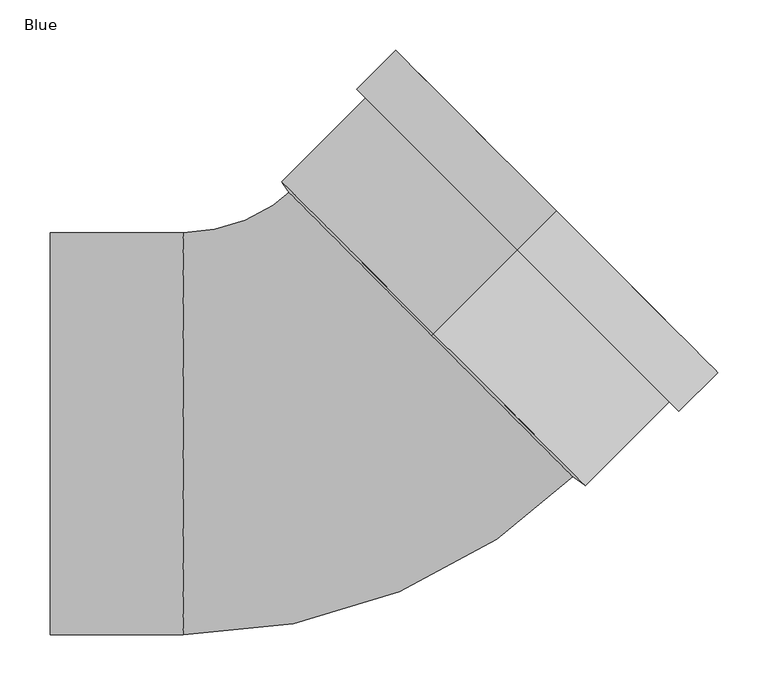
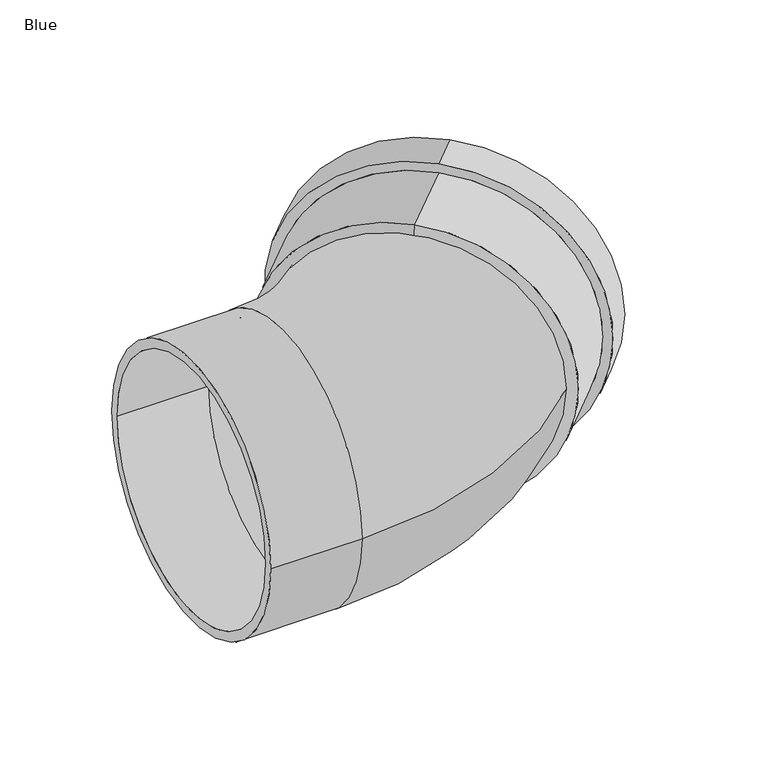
"""IFC4 building model written with IfcOpenShell, lengths in millimetres: pipe fitting geometry, AWADUKT PP SN10 Bend : Blue."""

from ifc_helpers import new_model, si_unit, point, frame, origin, place, context, project, spatial, polyline, circle_curve, ellipse_curve, trimmed, source, transform, mapped, element, save
from ifc_brep_helpers import plane_surface, cylinder_surface, revolved_surface, advanced_brep


def blue_8a6e1d2f(model_context):
    return source(origin(), model_context, "Body", "AdvancedBrep", [
        advanced_brep(
        [(182.7871029, 182.7871029, 213.7), (182.7871029, 182.7871029, -213.7), (99.3626553, 99.3626553, -213.7), (99.3626553, 99.3626553, 213.7), (221.5365545, 221.5365545, 227.4), (221.5365545, 221.5365545, -227.4), (182.7871029, 182.7871029, -227.4), (182.7871029, 182.7871029, 227.4), (211.8491916, 211.8491916, 200.0), (211.8491916, 211.8491916, -200.0), (221.5365545, 221.5365545, -200.0), (221.5365545, 221.5365545, 200.0), (192.4744658, 192.4744658, 213.7), (192.4744658, 192.4744658, -213.7), (211.8491916, 211.8491916, -213.7), (211.8491916, 211.8491916, 213.7), (107.4913179, 107.4913179, 200.0), (107.4913179, 107.4913179, -200.0), (192.4744658, 192.4744658, -200.0), (192.4744658, 192.4744658, 200.0), (105.7831745, 105.7831745, 186.3), (105.7831745, 105.7831745, -186.3), (95.9463684, 95.9463684, 186.3), (95.9463684, 95.9463684, -186.3)],
        [
            (0, 1, circle_curve(frame((182.7871029, 182.7871029, 0.0), z_axis=(-0.7071067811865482, -0.7071067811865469, 0.0), x_axis=(0.0, 0.0, -1.0)), 213.7)),
            (1, 2),
            (2, 3, circle_curve(frame((99.3626553, 99.3626553, 0.0), z_axis=(0.7071067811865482, 0.7071067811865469, 0.0), x_axis=(0.0, 0.0, -1.0)), 213.7)),
            (3, 0),
            (4, 5, circle_curve(frame((221.5365545, 221.5365545, 0.0), z_axis=(-0.7071067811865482, -0.7071067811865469, 0.0), x_axis=(0.0, 0.0, -1.0)), 227.4)),
            (5, 6),
            (6, 7, circle_curve(frame((182.7871029, 182.7871029, 0.0), z_axis=(0.7071067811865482, 0.7071067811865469, 0.0), x_axis=(0.0, 0.0, -1.0)), 227.4)),
            (7, 4),
            (8, 9, circle_curve(frame((211.8491916, 211.8491916, 0.0), z_axis=(-0.7071067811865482, -0.7071067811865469, 0.0), x_axis=(0.0, 0.0, -1.0)), 200.0)),
            (9, 10),
            (10, 11, circle_curve(frame((221.5365545, 221.5365545, 0.0), z_axis=(0.7071067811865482, 0.7071067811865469, 0.0), x_axis=(0.0, 0.0, -1.0)), 200.0)),
            (11, 8),
            (12, 13, circle_curve(frame((192.4744658, 192.4744658, 0.0), z_axis=(-0.7071067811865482, -0.7071067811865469, 0.0), x_axis=(0.0, 0.0, -1.0)), 213.7)),
            (13, 14),
            (14, 15, circle_curve(frame((211.8491916, 211.8491916, 0.0), z_axis=(0.7071067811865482, 0.7071067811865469, 0.0), x_axis=(0.0, 0.0, -1.0)), 213.7)),
            (15, 12),
            (16, 17, circle_curve(frame((107.4913179, 107.4913179, 0.0), z_axis=(-0.7071067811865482, -0.7071067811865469, 0.0), x_axis=(0.0, 0.0, -1.0)), 200.0)),
            (17, 18),
            (18, 19, circle_curve(frame((192.4744658, 192.4744658, 0.0), z_axis=(0.7071067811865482, 0.7071067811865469, 0.0), x_axis=(0.0, 0.0, -1.0)), 200.0)),
            (19, 16),
            (20, 21, circle_curve(frame((105.7831745, 105.7831745, 0.0), z_axis=(-0.7071067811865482, -0.7071067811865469, 0.0), x_axis=(0.0, 0.0, -1.0)), 186.3)),
            (21, 17),
            (16, 20),
            (22, 23, circle_curve(frame((95.9463684, 95.9463684, 0.0), z_axis=(-0.7071067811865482, -0.7071067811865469, 0.0), x_axis=(0.0, 0.0, -1.0)), 186.3)),
            (23, 21),
            (20, 22),
            (2, 23),
            (22, 3),
            (1, 0, circle_curve(frame((182.7871029, 182.7871029, 0.0), z_axis=(-0.7071067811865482, -0.7071067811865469, 0.0), x_axis=(0.0, 0.0, 1.0)), 213.7)),
            (3, 2, circle_curve(frame((99.3626553, 99.3626553, 0.0), z_axis=(0.7071067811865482, 0.7071067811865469, 0.0), x_axis=(0.0, 0.0, 1.0)), 213.7)),
            (6, 7, circle_curve(frame((182.7871029, 182.7871029, 0.0), z_axis=(-0.7071067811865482, -0.7071067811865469, 0.0), x_axis=(0.0, 0.0, 1.0)), 227.4)),
            (5, 4, circle_curve(frame((221.5365545, 221.5365545, 0.0), z_axis=(-0.7071067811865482, -0.7071067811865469, 0.0), x_axis=(0.0, 0.0, 1.0)), 227.4)),
            (10, 11, circle_curve(frame((221.5365545, 221.5365545, 0.0), z_axis=(-0.7071067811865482, -0.7071067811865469, 0.0), x_axis=(0.0, 0.0, 1.0)), 200.0)),
            (9, 8, circle_curve(frame((211.8491916, 211.8491916, 0.0), z_axis=(-0.7071067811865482, -0.7071067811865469, 0.0), x_axis=(0.0, 0.0, 1.0)), 200.0)),
            (14, 15, circle_curve(frame((211.8491916, 211.8491916, 0.0), z_axis=(-0.7071067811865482, -0.7071067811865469, 0.0), x_axis=(0.0, 0.0, 1.0)), 213.7)),
            (13, 12, circle_curve(frame((192.4744658, 192.4744658, 0.0), z_axis=(-0.7071067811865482, -0.7071067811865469, 0.0), x_axis=(0.0, 0.0, 1.0)), 213.7)),
            (18, 19, circle_curve(frame((192.4744658, 192.4744658, 0.0), z_axis=(-0.7071067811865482, -0.7071067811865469, 0.0), x_axis=(0.0, 0.0, 1.0)), 200.0)),
            (17, 16, circle_curve(frame((107.4913179, 107.4913179, 0.0), z_axis=(-0.7071067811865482, -0.7071067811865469, 0.0), x_axis=(0.0, 0.0, 1.0)), 200.0)),
            (21, 20, circle_curve(frame((105.7831745, 105.7831745, 0.0), z_axis=(-0.7071067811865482, -0.7071067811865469, 0.0), x_axis=(0.0, 0.0, 1.0)), 186.3)),
            (23, 22, circle_curve(frame((95.9463684, 95.9463684, 0.0), z_axis=(-0.7071067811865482, -0.7071067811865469, 0.0), x_axis=(0.0, 0.0, 1.0)), 186.3)),
        ],
        [
            cylinder_surface(frame((105.7831745, 105.7831745, 0.0), z_axis=(0.7071067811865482, 0.7071067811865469, 0.0), x_axis=(0.0, 0.0, -1.0)), 213.7),
            cylinder_surface(frame((105.7831745, 105.7831745, 0.0), z_axis=(0.7071067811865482, 0.7071067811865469, 0.0), x_axis=(0.0, 0.0, -1.0)), 227.4),
            revolved_surface(polyline([(221.53655450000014, 221.5365544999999, -200.0), (211.84919160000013, 211.84919159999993, -200.0)]), (105.7831745, 105.7831745, 0.0), (0.7071067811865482, 0.7071067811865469, 0.0)),
            revolved_surface(polyline([(211.84919160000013, 211.84919159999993, -213.7), (192.47446580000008, 192.4744657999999, -213.7)]), (105.7831745, 105.7831745, 0.0), (0.7071067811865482, 0.7071067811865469, 0.0)),
            revolved_surface(polyline([(192.47446580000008, 192.4744657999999, -200.0), (107.4913179, 107.4913179, -200.0)]), (105.7831745, 105.7831745, 0.0), (0.7071067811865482, 0.7071067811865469, 0.0)),
            revolved_surface(polyline([(107.4913179, 107.4913179, -200.0), (105.7831745, 105.7831745, -186.3)]), (105.7831745, 105.7831745, 0.0), (0.7071067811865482, 0.7071067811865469, 0.0)),
            revolved_surface(polyline([(105.7831745, 105.7831745, -186.3), (95.94636839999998, 95.94636840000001, -186.3)]), (105.7831745, 105.7831745, 0.0), (0.7071067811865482, 0.7071067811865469, 0.0)),
            revolved_surface(polyline([(95.9463684, 95.9463684, -186.3), (99.3626553, 99.3626553, -213.7)]), (105.7831745, 105.7831745, 0.0), (0.7071067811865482, 0.7071067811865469, 0.0)),
            cylinder_surface(frame((105.7831745, 105.7831745, 0.0), z_axis=(0.7071067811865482, 0.7071067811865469, 0.0), x_axis=(0.0, 0.0, 1.0)), 213.7),
            plane_surface(frame((182.7871029, 182.7871029, 0.0), z_axis=(-0.7071067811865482, -0.7071067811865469, 0.0), x_axis=(0.0, 0.0, 1.0))),
            cylinder_surface(frame((105.7831745, 105.7831745, 0.0), z_axis=(0.7071067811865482, 0.7071067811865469, 0.0), x_axis=(0.0, 0.0, 1.0)), 227.4),
            plane_surface(frame((221.5365545, 221.5365545, 0.0), z_axis=(0.7071067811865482, 0.7071067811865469, 0.0), x_axis=(0.0, 0.0, 1.0))),
            revolved_surface(polyline([(221.53655450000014, 221.5365544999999, 200.0), (211.84919160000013, 211.84919159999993, 200.0)]), (105.7831745, 105.7831745, 0.0), (0.7071067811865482, 0.7071067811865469, 0.0)),
            plane_surface(frame((211.8491916, 211.8491916, 0.0), z_axis=(-0.7071067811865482, -0.7071067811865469, 0.0), x_axis=(0.0, 0.0, 1.0))),
            revolved_surface(polyline([(211.84919160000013, 211.84919159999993, 213.7), (192.47446580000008, 192.4744657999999, 213.7)]), (105.7831745, 105.7831745, 0.0), (0.7071067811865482, 0.7071067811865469, 0.0)),
            plane_surface(frame((192.4744658, 192.4744658, 0.0), z_axis=(0.7071067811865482, 0.7071067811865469, 0.0), x_axis=(0.0, 0.0, 1.0))),
            revolved_surface(polyline([(192.47446580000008, 192.4744657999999, 200.0), (107.4913179, 107.4913179, 200.0)]), (105.7831745, 105.7831745, 0.0), (0.7071067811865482, 0.7071067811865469, 0.0)),
            revolved_surface(polyline([(107.4913179, 107.4913179, 200.0), (105.7831745, 105.7831745, 186.3)]), (105.7831745, 105.7831745, 0.0), (0.7071067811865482, 0.7071067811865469, 0.0)),
            revolved_surface(polyline([(105.7831745, 105.7831745, 186.3), (95.94636839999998, 95.94636840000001, 186.3)]), (105.7831745, 105.7831745, 0.0), (0.7071067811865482, 0.7071067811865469, 0.0)),
            revolved_surface(polyline([(95.9463684, 95.9463684, 186.3), (99.3626553, 99.3626553, 213.7)]), (105.7831745, 105.7831745, 0.0), (0.7071067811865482, 0.7071067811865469, 0.0)),
        ],
        [
            (0, [[1, 2, 3, 4]]),
            (1, [[5, 6, 7, 8]]),
            (2, [[9, 10, 11, 12]]),
            (3, [[13, 14, 15, 16]]),
            (4, [[17, 18, 19, 20]]),
            (5, [[21, 22, -17, 23]]),
            (6, [[24, 25, -21, 26]]),
            (7, [[-3, 27, -24, 28]]),
            (8, [[29, -4, 30, -2]]),
            (9, [[31, -7], [-29, -1]]),
            (10, [[32, -8, -31, -6]]),
            (11, [[-32, -5], [33, -11]]),
            (12, [[34, -12, -33, -10]]),
            (13, [[35, -15], [-34, -9]]),
            (14, [[36, -16, -35, -14]]),
            (15, [[-36, -13], [37, -19]]),
            (16, [[38, -20, -37, -18]]),
            (17, [[39, -23, -38, -22]]),
            (18, [[40, -26, -39, -25]]),
            (19, [[-30, -28, -40, -27]]),
        ],
    ),
        advanced_brep(
        [(-282.0, -200.0, 0.0), (-282.0, 200.0, 0.0), (-282.0, -186.3, 0.0), (-282.0, 186.3, 0.0), (247.2045307, -35.6381818, 0.0), (-35.6381818, 247.2045307, 0.0), (237.5171678, -25.9508189, 0.0), (-25.9508189, 237.5171678, 0.0), (-149.6, -186.3, 0.0), (-149.6, 186.3, 0.0), (-149.6, -200.0, 0.0), (-149.6, 200.0, 0.0)],
        [
            (0, 1, circle_curve(frame((-282.0, 0.0, 0.0), z_axis=(-1.0, 0.0, 0.0), x_axis=(0.0, 1.0, 0.0)), 200.0)),
            (1, 0, circle_curve(frame((-282.0, 0.0, 0.0), z_axis=(-1.0, 0.0, 0.0), x_axis=(0.0, 1.0, 0.0)), 200.0)),
            (2, 3, circle_curve(frame((-282.0, 0.0, 0.0), z_axis=(1.0, 0.0, 0.0), x_axis=(0.0, 1.0, 0.0)), 186.3)),
            (3, 2, circle_curve(frame((-282.0, 0.0, 0.0), z_axis=(1.0, 0.0, 0.0), x_axis=(0.0, 1.0, 0.0)), 186.3)),
            (4, 5, circle_curve(frame((105.7831745, 105.7831745, 0.0), z_axis=(0.7071067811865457, 0.7071067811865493, 0.0), x_axis=(-0.7071067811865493, 0.7071067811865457, 0.0)), 200.0)),
            (5, 4, circle_curve(frame((105.7831745, 105.7831745, 0.0), z_axis=(0.7071067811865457, 0.7071067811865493, 0.0), x_axis=(-0.7071067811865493, 0.7071067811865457, 0.0)), 200.0)),
            (6, 7, circle_curve(frame((105.7831745, 105.7831745, 0.0), z_axis=(-0.7071067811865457, -0.7071067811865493, 0.0), x_axis=(-0.7071067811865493, 0.7071067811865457, 0.0)), 186.3)),
            (7, 6, circle_curve(frame((105.7831745, 105.7831745, 0.0), z_axis=(-0.7071067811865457, -0.7071067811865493, 0.0), x_axis=(-0.7071067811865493, 0.7071067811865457, 0.0)), 186.3)),
            (2, 8),
            (8, 9, circle_curve(frame((-149.6, 0.0, 0.0), z_axis=(1.0, 0.0, 0.0), x_axis=(0.0, 1.0, 0.0)), 186.3)),
            (9, 3),
            (9, 8, circle_curve(frame((-149.6, 0.0, 0.0), z_axis=(1.0, 0.0, 0.0), x_axis=(0.0, 1.0, 0.0)), 186.3)),
            (0, 10),
            (10, 11, circle_curve(frame((-149.6, 0.0, 0.0), z_axis=(-1.0, 0.0, 0.0), x_axis=(0.0, 1.0, 0.0)), 200.0)),
            (11, 1),
            (11, 10, circle_curve(frame((-149.6, 0.0, 0.0), z_axis=(-1.0, 0.0, 0.0), x_axis=(0.0, 1.0, 0.0)), 200.0)),
            (7, 9, circle_curve(frame((-149.6, 361.1663489, 0.0), z_axis=(0.0, 0.0, -1.0), x_axis=(0.0, -1.0, 0.0)), 174.8663489)),
            (8, 6, circle_curve(frame((-149.6, 361.1663489, 0.0), z_axis=(0.0, 0.0, 1.0), x_axis=(0.0, -1.0, 0.0)), 547.4663489)),
            (5, 11, circle_curve(frame((-149.6, 361.1663489, 0.0), z_axis=(0.0, 0.0, -1.0), x_axis=(0.0, -1.0, 0.0)), 161.1663489)),
            (10, 4, circle_curve(frame((-149.6, 361.1663489, 0.0), z_axis=(0.0, 0.0, 1.0), x_axis=(0.0, -1.0, 0.0)), 561.1663489)),
        ],
        [
            plane_surface(frame((-282.0, 0.0, 0.0), z_axis=(-1.0, 0.0, 0.0), x_axis=(0.0, 0.0, 1.0))),
            plane_surface(frame((105.7831745, 105.7831745, 0.0), z_axis=(0.7071067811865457, 0.7071067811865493, 0.0), x_axis=(0.0, 0.0, 1.0))),
            revolved_surface(polyline([(-149.6, 186.3, 0.0), (-282.0, 186.3, 0.0)]), (-282.0, 0.0, 0.0), (1.0, 0.0, 0.0)),
            cylinder_surface(frame((-282.0, 0.0, 0.0), z_axis=(-1.0, 0.0, 0.0), x_axis=(0.0, 1.0, 0.0)), 200.0),
            revolved_surface(trimmed(ellipse_curve(frame((-149.6, 0.0, 0.0), z_axis=(1.0, 0.0, 0.0), x_axis=(0.0, 1.0, 0.0)), 186.3, 186.3), [point((-149.6, -186.3, 0.0))], [point((-149.6, 186.3, 0.0))], True, "CARTESIAN"), (-149.6, 361.1663489, 0.0), (0.0, 0.0, 1.0)),
            revolved_surface(trimmed(ellipse_curve(frame((-149.6, 0.0, 0.0), z_axis=(1.0, 0.0, 0.0), x_axis=(0.0, 1.0, 0.0)), 186.3, 186.3), [point((-149.6, 186.3, 0.0))], [point((-149.6, -186.3, 0.0))], True, "CARTESIAN"), (-149.6, 361.1663489, 0.0), (0.0, 0.0, 1.0)),
            revolved_surface(trimmed(ellipse_curve(frame((-149.6, 0.0, 0.0), z_axis=(-1.0, 0.0, 0.0), x_axis=(0.0, 1.0, 0.0)), 200.0, 200.0), [point((-149.6, -200.0, 0.0))], [point((-149.6, 200.0, 0.0))], True, "CARTESIAN"), (-149.6, 361.1663489, 0.0), (0.0, 0.0, 1.0)),
            revolved_surface(trimmed(ellipse_curve(frame((-149.6, 0.0, 0.0), z_axis=(-1.0, 0.0, 0.0), x_axis=(0.0, 1.0, 0.0)), 200.0, 200.0), [point((-149.6, 200.0, 0.0))], [point((-149.6, -200.0, 0.0))], True, "CARTESIAN"), (-149.6, 361.1663489, 0.0), (0.0, 0.0, 1.0)),
        ],
        [
            (0, [[1, 2], [3, 4]]),
            (1, [[5, 6], [7, 8]]),
            (2, [[-3, 9, 10, 11]]),
            (2, [[-4, -11, 12, -9]]),
            (3, [[-1, 13, 14, 15]]),
            (3, [[-2, -15, 16, -13]]),
            (4, [[17, -10, 18, -8]]),
            (5, [[-18, -12, -17, -7]]),
            (6, [[19, -14, 20, -6]]),
            (7, [[-20, -16, -19, -5]]),
        ],
    ),
    ])


if __name__ == "__main__":
    model = new_model("IFC4")
    model_context = context("Model", 3, world=origin())
    ifc_project = project(units=[si_unit("LENGTHUNIT", "METRE", prefix="MILLI")], contexts=[model_context])
    site = spatial("IfcSite", under=ifc_project)
    building = spatial("IfcBuilding", under=site)
    placement = place(None, origin())
    blue_shape = blue_8a6e1d2f(model_context)
    element("IfcPipeFitting", 1, ObjectType="AWADUKT PP SN10 Bend : Blue", at=placement, inside=building, context=model_context, shape_type="MappedRepresentation", body=[
        mapped(blue_shape, transform((0.0, 0.0, 0.0), x_axis=(1.0, 0.0, 0.0), y_axis=(0.0, 1.0, 0.0), z_axis=(0.0, 0.0, 1.0))),
    ])
    save(model, "model.ifc")
